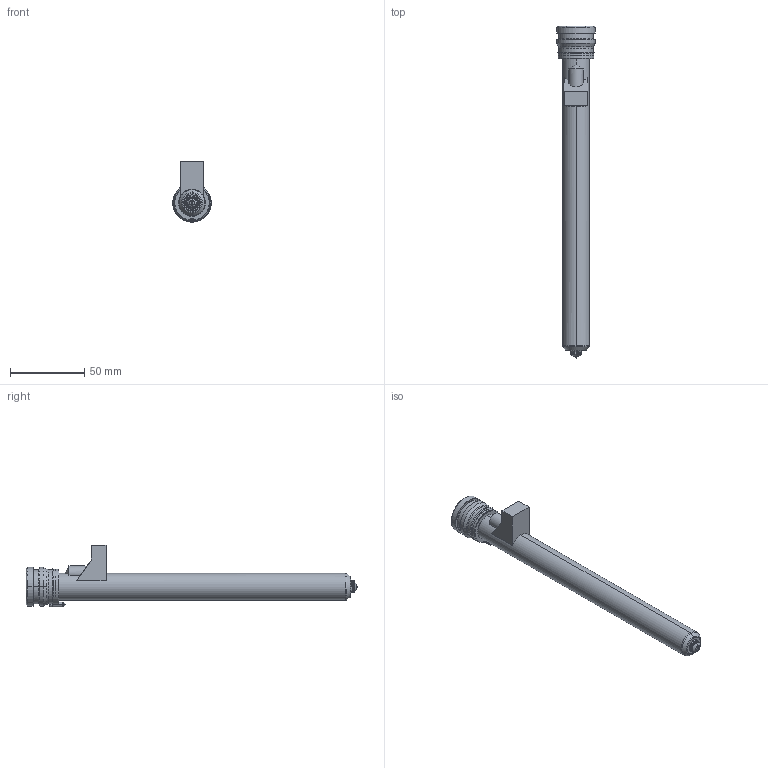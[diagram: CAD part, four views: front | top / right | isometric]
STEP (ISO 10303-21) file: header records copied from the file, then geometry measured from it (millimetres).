
FILE_DESCRIPTION((''),'2;1');
FILE_NAME('MPN-08-24-VSA8-206-M','2026-02-05T13:35:25',('UPTIO'),('Thermoplay S.p.A.'),'CREO PARAMETRIC BY PTC INC, 2023494','CREO PARAMETRIC BY PTC INC, 2023494','');
FILE_SCHEMA(('CONFIG_CONTROL_DESIGN','SHAPE_APPEARANCE_LAYERS_GROUPS'));
Length unit declared in the file: millimetre
Products named in the file (1): MPN-08-24-VSA8-206-M
Bounding box: 26 x 224 x 41.5 mm (x, y, z)
Volume: 41519.8 mm3; surface area: 55952.7 mm2
Topology: 2 solids, 3 shells, 527 faces, 1374 edges, 846 vertices
Faces by surface type: cylinder 176, plane 143, bspline 75, torus 60, cone 58, sphere 9, extrusion 6
Entity records: 27271 total; most frequent: CARTESIAN_POINT 11792, ORIENTED_EDGE 2730, DIRECTION 2497, EDGE_CURVE 1365, AXIS2_PLACEMENT_3D 975, VERTEX_POINT 846, EDGE_LOOP 557, VECTOR 547
